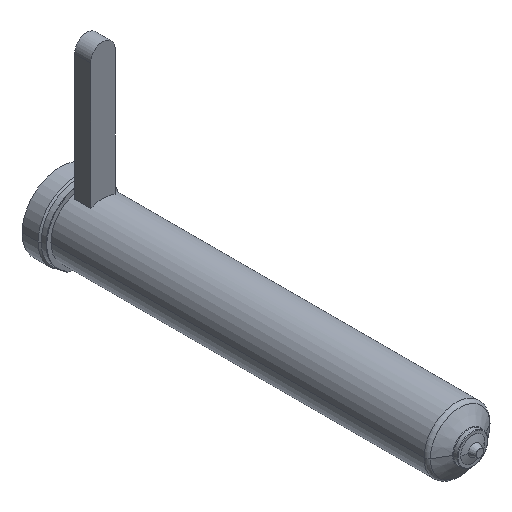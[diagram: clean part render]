
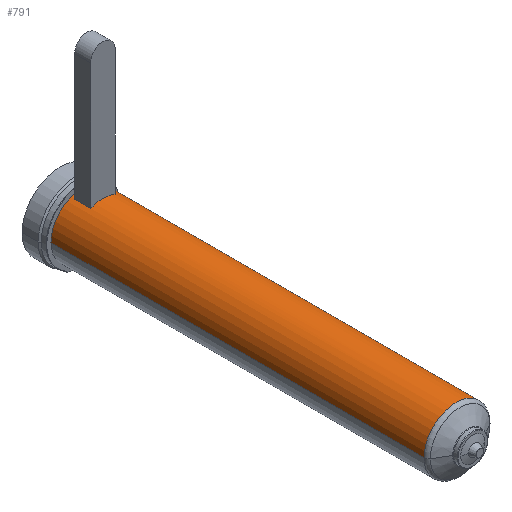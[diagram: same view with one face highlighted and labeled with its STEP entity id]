
A CAD part, isometric view. The second image highlights one B-rep face of the part: STEP entity #791.
In plain terms, the highlighted cylindrical face has radius 21 mm (diameter 42 mm), a partial arc.
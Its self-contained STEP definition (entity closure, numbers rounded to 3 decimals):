
#199=DIRECTION('',(0.,-1.,0.));
#200=VECTOR('',#199,244.428);
#201=CARTESIAN_POINT('',(21.,0.,0.));
#202=LINE('',#201,#200);
#203=CARTESIAN_POINT('',(0.,-244.428,0.));
#204=DIRECTION('',(0.,1.,0.));
#205=DIRECTION('',(-1.,0.,0.));
#206=AXIS2_PLACEMENT_3D('',#203,#204,#205);
#208=DIRECTION('',(0.,1.,0.));
#209=VECTOR('',#208,244.428);
#210=CARTESIAN_POINT('',(-21.,-244.428,0.));
#211=LINE('',#210,#209);
#212=CARTESIAN_POINT('',(0.,0.,0.));
#213=DIRECTION('',(0.,1.,0.));
#214=DIRECTION('',(-1.,0.,0.));
#215=AXIS2_PLACEMENT_3D('',#212,#213,#214);
#361=DIRECTION('',(0.,-1.,0.));
#362=VECTOR('',#361,10.5);
#363=CARTESIAN_POINT('',(-8.,-2.5,19.416));
#364=LINE('',#363,#362);
#365=CARTESIAN_POINT('',(0.,-13.,0.));
#366=DIRECTION('',(0.,1.,0.));
#367=DIRECTION('',(-0.381,0.,0.925));
#368=AXIS2_PLACEMENT_3D('',#365,#366,#367);
#391=CARTESIAN_POINT('',(0.,-2.5,0.));
#392=DIRECTION('',(0.,-1.,0.));
#393=DIRECTION('',(0.381,0.,0.925));
#394=AXIS2_PLACEMENT_3D('',#391,#392,#393);
#409=DIRECTION('',(0.,-1.,0.));
#410=VECTOR('',#409,10.5);
#411=CARTESIAN_POINT('',(8.,-2.5,19.416));
#412=LINE('',#411,#410);
#470=CARTESIAN_POINT('',(-21.,0.,0.));
#471=CARTESIAN_POINT('',(21.,0.,0.));
#472=VERTEX_POINT('',#470);
#473=VERTEX_POINT('',#471);
#482=CARTESIAN_POINT('',(-8.,-2.5,19.416));
#483=VERTEX_POINT('',#482);
#484=CARTESIAN_POINT('',(8.,-2.5,19.416));
#485=VERTEX_POINT('',#484);
#522=CARTESIAN_POINT('',(21.,-244.428,0.));
#523=VERTEX_POINT('',#522);
#532=CARTESIAN_POINT('',(-21.,-244.428,0.));
#533=VERTEX_POINT('',#532);
#550=CARTESIAN_POINT('',(-8.,-13.,19.416));
#551=CARTESIAN_POINT('',(8.,-13.,19.416));
#552=VERTEX_POINT('',#550);
#553=VERTEX_POINT('',#551);
#769=CARTESIAN_POINT('',(0.,16.4,0.));
#770=DIRECTION('',(0.,-1.,0.));
#771=DIRECTION('',(-1.,0.,0.));
#772=AXIS2_PLACEMENT_3D('',#769,#770,#771);
#773=CYLINDRICAL_SURFACE('',#772,21.);
#774=ORIENTED_EDGE('',*,*,#763,.T.);
#776=ORIENTED_EDGE('',*,*,#775,.F.);
#777=ORIENTED_EDGE('',*,*,#759,.T.);
#778=ORIENTED_EDGE('',*,*,#749,.T.);
#779=EDGE_LOOP('',(#774,#776,#777,#778));
#780=FACE_OUTER_BOUND('',#779,.F.);
#782=ORIENTED_EDGE('',*,*,#781,.T.);
#784=ORIENTED_EDGE('',*,*,#783,.T.);
#786=ORIENTED_EDGE('',*,*,#785,.F.);
#788=ORIENTED_EDGE('',*,*,#787,.T.);
#789=EDGE_LOOP('',(#782,#784,#786,#788));
#790=FACE_BOUND('',#789,.F.);
#791=ADVANCED_FACE('',(#780,#790),#773,.T.);
#207=CIRCLE('',#206,21.);
#216=CIRCLE('',#215,21.);
#369=CIRCLE('',#368,21.);
#395=CIRCLE('',#394,21.);
#749=EDGE_CURVE('',#472,#473,#216,.T.);
#759=EDGE_CURVE('',#533,#472,#211,.T.);
#763=EDGE_CURVE('',#473,#523,#202,.T.);
#775=EDGE_CURVE('',#533,#523,#207,.T.);
#781=EDGE_CURVE('',#483,#552,#364,.T.);
#783=EDGE_CURVE('',#552,#553,#369,.T.);
#785=EDGE_CURVE('',#485,#553,#412,.T.);
#787=EDGE_CURVE('',#485,#483,#395,.T.);
